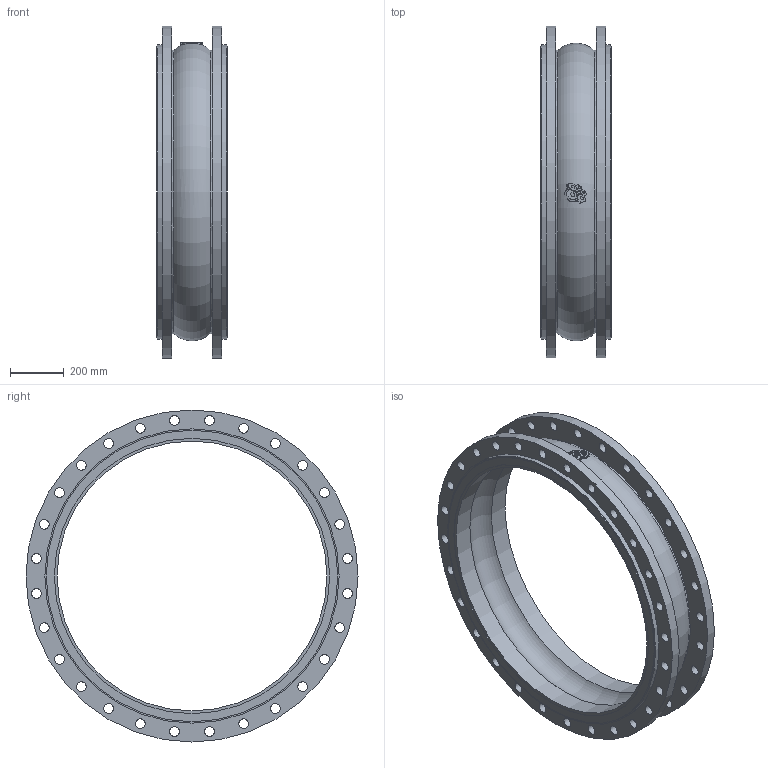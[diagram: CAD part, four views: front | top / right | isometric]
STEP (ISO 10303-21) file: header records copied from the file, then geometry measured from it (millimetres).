
FILE_DESCRIPTION(('STEP AP203'), '1');
FILE_NAME('3D_500-1000-EPDM-FF', '', ('UNSPECIFIED'), ('UNSPECIFIED'), 'C3D Converter', 'C3D Toolkit', '');
FILE_SCHEMA(('CONFIG_CONTROL_DESIGN'));
Length unit declared in the file: millimetre
Bounding box: 260 x 1230 x 1230 mm (x, y, z)
Volume: 45574746.4 mm3; surface area: 3692310 mm2
Topology: 1 solids, 1 shells, 911 faces, 2677 edges, 1792 vertices
Faces by surface type: plane 833, cylinder 70, torus 8
Full cylindrical faces by diameter (mm): 36 x56, 1000 x2, 1020 x2, 1050 x4, 1080 x2, 1090 x2, 1230 x2
Entity records: 39234 total; most frequent: CARTESIAN_POINT 9142, ORIENTED_EDGE 5210, DIRECTION 3784, EDGE_CURVE 2605, VERTEX_POINT 1792, LINE 1626, VECTOR 1626, EDGE_LOOP 1121
